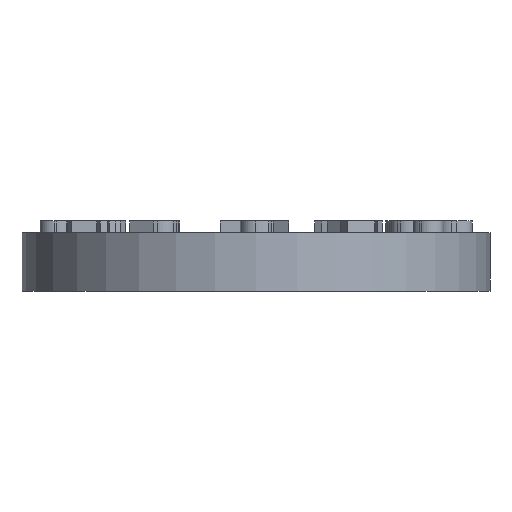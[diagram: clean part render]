
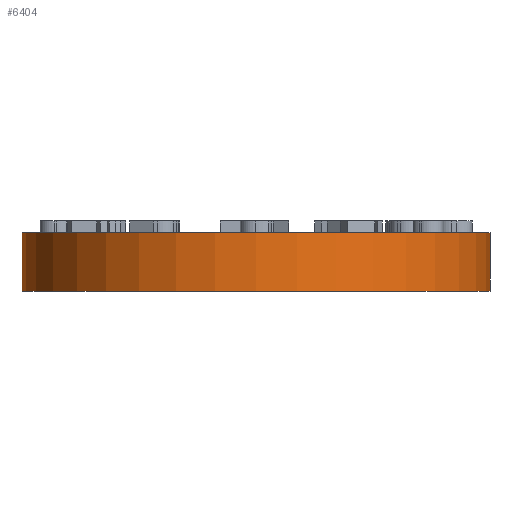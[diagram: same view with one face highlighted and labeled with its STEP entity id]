
A CAD part, front view. The second image highlights one B-rep face of the part: STEP entity #6404.
In plain terms, the highlighted cylindrical face has radius 20 mm (diameter 40 mm), a partial arc.
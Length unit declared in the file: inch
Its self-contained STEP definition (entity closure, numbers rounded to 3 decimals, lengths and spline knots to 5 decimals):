
#100 = AXIS2_PLACEMENT_3D ( 'NONE', #4752, #1056, #2194 ) ;
#114 = ORIENTED_EDGE ( 'NONE', *, *, #2835, .T. ) ;
#340 = CYLINDRICAL_SURFACE ( 'NONE', #4779, 0.7874 ) ;
#529 = DIRECTION ( 'NONE',  ( 1., 0., 0. ) ) ;
#687 = ORIENTED_EDGE ( 'NONE', *, *, #1612, .T. ) ;
#764 = VERTEX_POINT ( 'NONE', #6186 ) ;
#1056 = DIRECTION ( 'NONE',  ( 0., 0., 1. ) ) ;
#1155 = DIRECTION ( 'NONE',  ( 0., 0., 1. ) ) ;
#1194 = AXIS2_PLACEMENT_3D ( 'NONE', #5365, #5263, #529 ) ;
#1334 = ORIENTED_EDGE ( 'NONE', *, *, #1812, .F. ) ;
#1457 = DIRECTION ( 'NONE',  ( 0., 0., 1. ) ) ;
#1510 = CARTESIAN_POINT ( 'NONE',  ( 0.7874, 0., 0.28386 ) ) ;
#1612 = EDGE_CURVE ( 'NONE', #764, #1949, #5106, .T. ) ;
#1685 = CARTESIAN_POINT ( 'NONE',  ( -0.7874, 0., 0. ) ) ;
#1745 = CARTESIAN_POINT ( 'NONE',  ( -0.7874, 0., 0.28386 ) ) ;
#1812 = EDGE_CURVE ( 'NONE', #6113, #4945, #5299, .T. ) ;
#1829 = EDGE_CURVE ( 'NONE', #4945, #1949, #1870, .T. ) ;
#1870 = CIRCLE ( 'NONE', #1194, 0.7874 ) ;
#1949 = VERTEX_POINT ( 'NONE', #5438 ) ;
#2194 = DIRECTION ( 'NONE',  ( 1., 0., 0. ) ) ;
#2201 = CIRCLE ( 'NONE', #100, 0.7874 ) ;
#2464 = CARTESIAN_POINT ( 'NONE',  ( -0.7874, 0., -0.19685 ) ) ;
#2472 = ORIENTED_EDGE ( 'NONE', *, *, #1829, .F. ) ;
#2554 = FACE_OUTER_BOUND ( 'NONE', #2958, .T. ) ;
#2835 = EDGE_CURVE ( 'NONE', #6113, #764, #2201, .T. ) ;
#2958 = EDGE_LOOP ( 'NONE', ( #1334, #114, #687, #2472 ) ) ;
#3958 = VECTOR ( 'NONE', #1155, 39.37008 ) ;
#4106 = CARTESIAN_POINT ( 'NONE',  ( 0., 0., 0.28386 ) ) ;
#4560 = DIRECTION ( 'NONE',  ( 1., 0., 0. ) ) ;
#4752 = CARTESIAN_POINT ( 'NONE',  ( 0., 0., -0.19685 ) ) ;
#4779 = AXIS2_PLACEMENT_3D ( 'NONE', #4106, #1457, #4560 ) ;
#4945 = VERTEX_POINT ( 'NONE', #1685 ) ;
#5106 = LINE ( 'NONE', #1510, #5722 ) ;
#5263 = DIRECTION ( 'NONE',  ( 0., 0., 1. ) ) ;
#5299 = LINE ( 'NONE', #1745, #3958 ) ;
#5365 = CARTESIAN_POINT ( 'NONE',  ( 0., 0., 0. ) ) ;
#5438 = CARTESIAN_POINT ( 'NONE',  ( 0.7874, 0., 0. ) ) ;
#5722 = VECTOR ( 'NONE', #5789, 39.37008 ) ;
#5789 = DIRECTION ( 'NONE',  ( 0., 0., 1. ) ) ;
#6113 = VERTEX_POINT ( 'NONE', #2464 ) ;
#6186 = CARTESIAN_POINT ( 'NONE',  ( 0.7874, 0., -0.19685 ) ) ;
#6404 = ADVANCED_FACE ( 'NONE', ( #2554 ), #340, .T. ) ;
